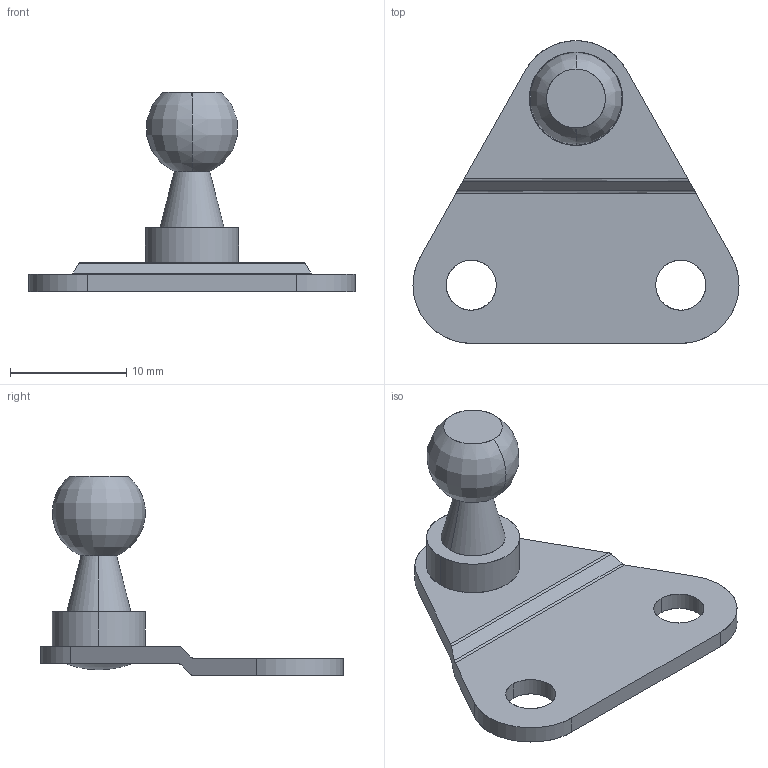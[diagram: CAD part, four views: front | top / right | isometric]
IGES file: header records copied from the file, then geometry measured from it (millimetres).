
Start section: SolidWorks IGES file using analytic representation for surfaces
Bounding box: 28 x 26 x 17.1 mm (x, y, z)
Surface area: 1429.2 mm2 (no closed solid volume)
Topology: 0 solids, 0 shells, 31 faces, 534 edges, 533 vertices
Faces by surface type: revolution 20, bspline 11
